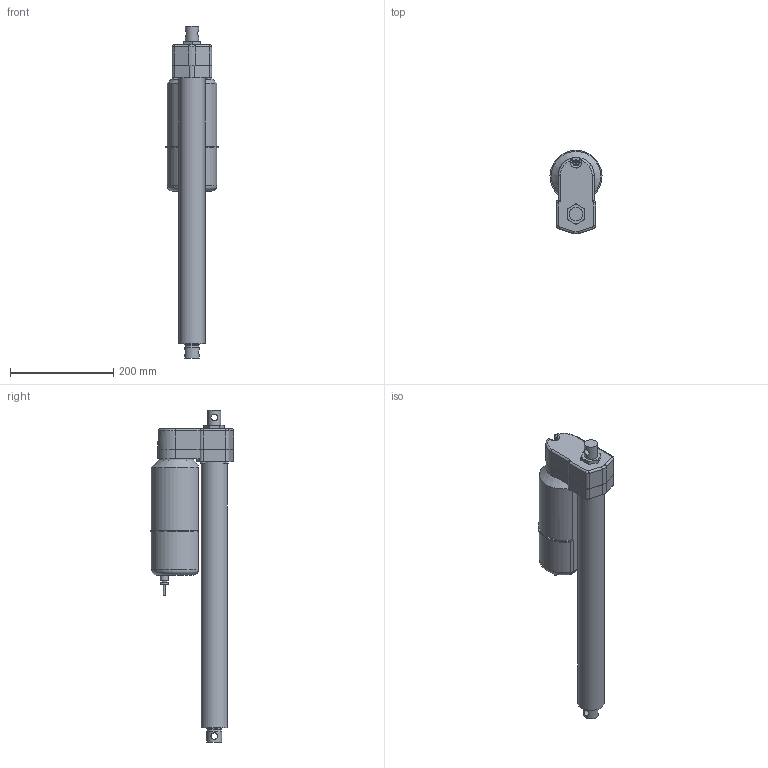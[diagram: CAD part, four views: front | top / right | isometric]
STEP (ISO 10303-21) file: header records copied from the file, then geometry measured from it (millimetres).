
FILE_DESCRIPTION (( 'STEP AP214' ), '1' );
FILE_NAME ('A22-05A5-16M0N-tollo.step', '2020-04-05T12:00:31', ( '' ), ( '' ), 'SwSTEP 2.0', 'SolidWorks 2010', '' );
FILE_SCHEMA (( 'AUTOMOTIVE_DESIGN' ));
Length unit declared in the file: millimetre
Products named in the file (7): Electrak-LA5-Motor-A22-05A5-16M0N-tollo_Electrak-LA5-Motor-A22-05A5-16M0N-tollo; Electrak-LA5-Rear-A22-05A5-16M0N-tollo_Electrak-LA5-Rear-A22-05A5-16M0N-tollo; Electrak-LA5-Tube-A22-05A5-16M0N-tollo_Electrak-LA5-Tube-A22-05A5-16M0N-tollo; Electrak-LA5-Rod-A22-05A5-16M0N-tollo_Electrak-LA5-Rod-A22-05A5-16M0N-tollo; Screw-MFX-H-M5-A22-05A5-16M0N-tollo_Screw-MFX-H-M5-A22-05A5-16M0N-tollo; Screw-M6S-M5-A22-05A5-16M0N-tollo_Screw-M6S-M5-A22-05A5-16M0N-tollo; A22-05A5-16M0N-tollo
Assembly tree (9 placements, depth 2):
  A22-05A5-16M0N-tollo
    Screw-M6S-M5-A22-05A5-16M0N-tollo_Screw-M6S-M5-A22-05A5-16M0N-tollo  x4
    Electrak-LA5-Rod-A22-05A5-16M0N-tollo_Electrak-LA5-Rod-A22-05A5-16M0N-tollo
    Screw-MFX-H-M5-A22-05A5-16M0N-tollo_Screw-MFX-H-M5-A22-05A5-16M0N-tollo
    Electrak-LA5-Motor-A22-05A5-16M0N-tollo_Electrak-LA5-Motor-A22-05A5-16M0N-tollo
    Electrak-LA5-Rear-A22-05A5-16M0N-tollo_Electrak-LA5-Rear-A22-05A5-16M0N-tollo
    Electrak-LA5-Tube-A22-05A5-16M0N-tollo_Electrak-LA5-Tube-A22-05A5-16M0N-tollo
Bounding box: 100.99 x 162.5 x 643.8 mm (x, y, z)
Volume: 3210420.7 mm3; surface area: 322431.9 mm2
Topology: 9 solids, 9 shells, 238 faces, 549 edges, 347 vertices
Faces by surface type: plane 95, cylinder 92, cone 31, torus 15, bspline 3, sphere 2
Full cylindrical faces by diameter (mm): 4 x1, 4.126 x5, 4.8 x2, 5 x13, 7.878 x4, 9.3 x1, 10 x1, 12.8 x2, 15 x2, 25.4 x1, 28.6 x4, 51.3 x1, 68 x1
Entity records: 5776 total; most frequent: CARTESIAN_POINT 1721, DIRECTION 806, ORIENTED_EDGE 666, AXIS2_PLACEMENT_3D 339, EDGE_CURVE 333, EDGE_LOOP 245, VERTEX_POINT 236, FACE_OUTER_BOUND 198
